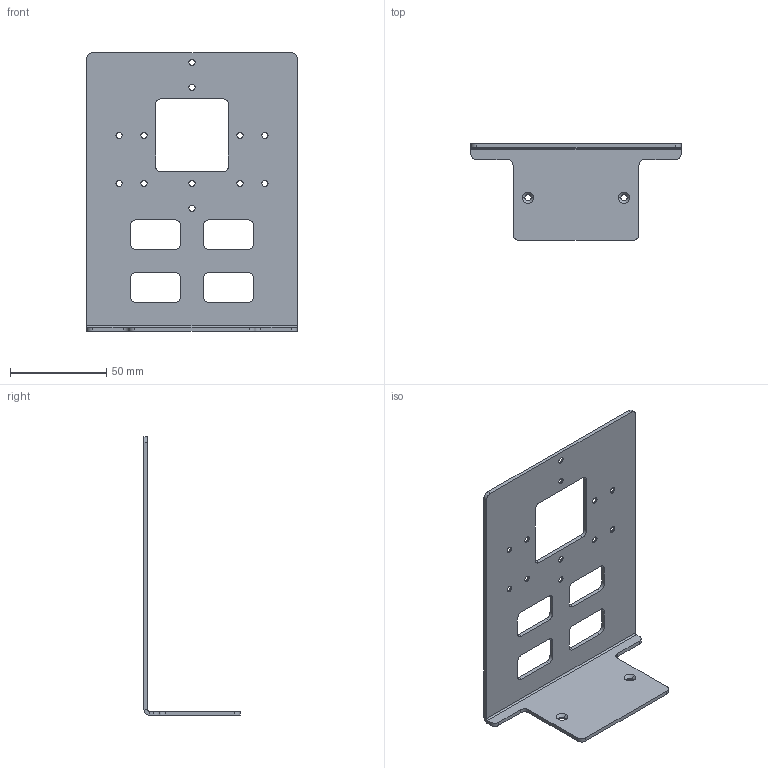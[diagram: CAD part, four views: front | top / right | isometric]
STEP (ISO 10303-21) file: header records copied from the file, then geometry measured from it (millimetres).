
FILE_DESCRIPTION (( 'STEP AP214' ), '1' );
FILE_NAME ('206F10120-Mounting bracket, For IOT-GATE products, L=145mm rev1.1.STEP', '2022-06-01T15:49:08', ( '' ), ( '' ), 'SwSTEP 2.0', 'SolidWorks 2019', '' );
FILE_SCHEMA (( 'AUTOMOTIVE_DESIGN' ));
Length unit declared in the file: millimetre
Products named in the file (1): 206F10120-Mounting bracket, For IOT-GATE products, L=145mm rev1.1
Bounding box: 109.6 x 50 x 145 mm (x, y, z)
Volume: 31986.7 mm3; surface area: 34469.8 mm2
Topology: 1 solids, 1 shells, 122 faces, 324 edges, 204 vertices
Faces by surface type: cylinder 58, plane 36, cone 28
Entity records: 3914 total; most frequent: DIRECTION 714, CARTESIAN_POINT 651, ORIENTED_EDGE 648, EDGE_CURVE 324, AXIS2_PLACEMENT_3D 267, VERTEX_POINT 204, LINE 180, VECTOR 180
